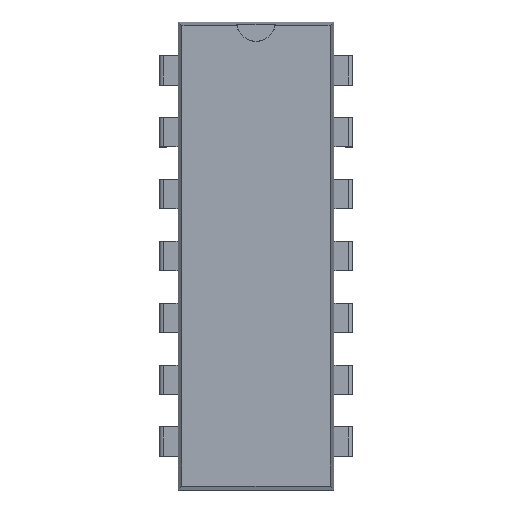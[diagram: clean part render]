
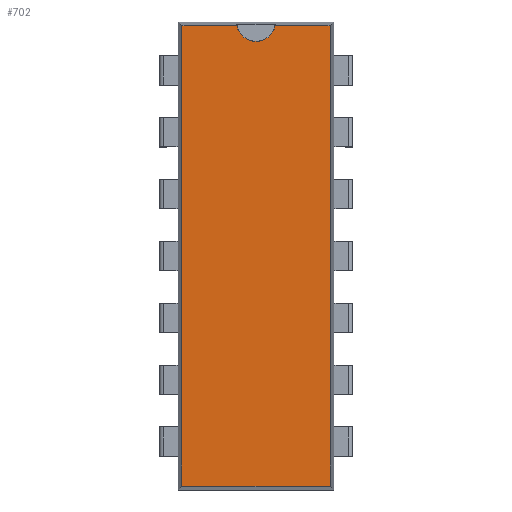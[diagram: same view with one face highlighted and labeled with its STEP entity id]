
A CAD part, top view. The second image highlights one B-rep face of the part: STEP entity #702.
In plain terms, the highlighted planar face has unit normal (0, 0, 1).
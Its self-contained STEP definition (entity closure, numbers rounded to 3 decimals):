
#141 = PLANE('',#142);
#142 = AXIS2_PLACEMENT_3D('',#143,#144,#145);
#143 = CARTESIAN_POINT('',(-3.12,-9.61,3.525));
#144 = DIRECTION('',(0.997,0.,
    -0.082));
#145 = DIRECTION('',(0.,1.,0.));
#227 = PLANE('',#228);
#228 = AXIS2_PLACEMENT_3D('',#229,#230,#231);
#229 = CARTESIAN_POINT('',(-3.2,-9.53,3.525));
#230 = DIRECTION('',(0.,0.997,
    -0.082));
#231 = DIRECTION('',(-1.,0.,0.));
#324 = VERTEX_POINT('',#325);
#325 = CARTESIAN_POINT('',(-3.04,-9.45,4.5));
#348 = VERTEX_POINT('',#349);
#349 = CARTESIAN_POINT('',(-3.04,9.45,4.5));
#363 = PLANE('',#364);
#364 = AXIS2_PLACEMENT_3D('',#365,#366,#367);
#365 = CARTESIAN_POINT('',(-3.2,9.53,3.525));
#366 = DIRECTION('',(0.,0.997,
    0.082));
#367 = DIRECTION('',(-1.,0.,0.));
#375 = EDGE_CURVE('',#324,#348,#376,.T.);
#376 = SURFACE_CURVE('',#377,(#381,#388),.PCURVE_S1.);
#377 = LINE('',#378,#379);
#378 = CARTESIAN_POINT('',(-3.04,-9.61,4.5));
#379 = VECTOR('',#380,1.);
#380 = DIRECTION('',(0.,1.,0.));
#381 = PCURVE('',#141,#382);
#382 = DEFINITIONAL_REPRESENTATION('',(#383),#387);
#383 = LINE('',#384,#385);
#384 = CARTESIAN_POINT('',(0.,0.978));
#385 = VECTOR('',#386,1.);
#386 = DIRECTION('',(1.,0.));
#387 = ( GEOMETRIC_REPRESENTATION_CONTEXT(2) 
PARAMETRIC_REPRESENTATION_CONTEXT() REPRESENTATION_CONTEXT('2D SPACE',''
  ) );
#388 = PCURVE('',#389,#394);
#389 = PLANE('',#390);
#390 = AXIS2_PLACEMENT_3D('',#391,#392,#393);
#391 = CARTESIAN_POINT('',(-3.2,-9.61,4.5));
#392 = DIRECTION('',(0.,0.,1.));
#393 = DIRECTION('',(1.,0.,0.));
#394 = DEFINITIONAL_REPRESENTATION('',(#395),#399);
#395 = LINE('',#396,#397);
#396 = CARTESIAN_POINT('',(0.16,0.));
#397 = VECTOR('',#398,1.);
#398 = DIRECTION('',(0.,1.));
#399 = ( GEOMETRIC_REPRESENTATION_CONTEXT(2) 
PARAMETRIC_REPRESENTATION_CONTEXT() REPRESENTATION_CONTEXT('2D SPACE',''
  ) );
#517 = PLANE('',#518);
#518 = AXIS2_PLACEMENT_3D('',#519,#520,#521);
#519 = CARTESIAN_POINT('',(3.12,-9.61,3.525));
#520 = DIRECTION('',(0.997,0.,
    0.082));
#521 = DIRECTION('',(0.,1.,0.));
#584 = VERTEX_POINT('',#585);
#585 = CARTESIAN_POINT('',(3.04,-9.45,4.5));
#606 = EDGE_CURVE('',#324,#584,#607,.T.);
#607 = SURFACE_CURVE('',#608,(#612,#619),.PCURVE_S1.);
#608 = LINE('',#609,#610);
#609 = CARTESIAN_POINT('',(-3.2,-9.45,4.5));
#610 = VECTOR('',#611,1.);
#611 = DIRECTION('',(1.,0.,0.));
#612 = PCURVE('',#227,#613);
#613 = DEFINITIONAL_REPRESENTATION('',(#614),#618);
#614 = LINE('',#615,#616);
#615 = CARTESIAN_POINT('',(-0.,0.978));
#616 = VECTOR('',#617,1.);
#617 = DIRECTION('',(-1.,0.));
#618 = ( GEOMETRIC_REPRESENTATION_CONTEXT(2) 
PARAMETRIC_REPRESENTATION_CONTEXT() REPRESENTATION_CONTEXT('2D SPACE',''
  ) );
#619 = PCURVE('',#389,#620);
#620 = DEFINITIONAL_REPRESENTATION('',(#621),#625);
#621 = LINE('',#622,#623);
#622 = CARTESIAN_POINT('',(0.,0.16));
#623 = VECTOR('',#624,1.);
#624 = DIRECTION('',(1.,0.));
#625 = ( GEOMETRIC_REPRESENTATION_CONTEXT(2) 
PARAMETRIC_REPRESENTATION_CONTEXT() REPRESENTATION_CONTEXT('2D SPACE',''
  ) );
#702 = ADVANCED_FACE('',(#703),#389,.T.);
#703 = FACE_BOUND('',#704,.T.);
#704 = EDGE_LOOP('',(#705,#706,#707,#730,#753,#782));
#705 = ORIENTED_EDGE('',*,*,#375,.F.);
#706 = ORIENTED_EDGE('',*,*,#606,.T.);
#707 = ORIENTED_EDGE('',*,*,#708,.T.);
#708 = EDGE_CURVE('',#584,#709,#711,.T.);
#709 = VERTEX_POINT('',#710);
#710 = CARTESIAN_POINT('',(3.04,9.45,4.5));
#711 = SURFACE_CURVE('',#712,(#716,#723),.PCURVE_S1.);
#712 = LINE('',#713,#714);
#713 = CARTESIAN_POINT('',(3.04,-9.61,4.5));
#714 = VECTOR('',#715,1.);
#715 = DIRECTION('',(0.,1.,0.));
#716 = PCURVE('',#389,#717);
#717 = DEFINITIONAL_REPRESENTATION('',(#718),#722);
#718 = LINE('',#719,#720);
#719 = CARTESIAN_POINT('',(6.24,0.));
#720 = VECTOR('',#721,1.);
#721 = DIRECTION('',(0.,1.));
#722 = ( GEOMETRIC_REPRESENTATION_CONTEXT(2) 
PARAMETRIC_REPRESENTATION_CONTEXT() REPRESENTATION_CONTEXT('2D SPACE',''
  ) );
#723 = PCURVE('',#517,#724);
#724 = DEFINITIONAL_REPRESENTATION('',(#725),#729);
#725 = LINE('',#726,#727);
#726 = CARTESIAN_POINT('',(0.,0.978));
#727 = VECTOR('',#728,1.);
#728 = DIRECTION('',(1.,0.));
#729 = ( GEOMETRIC_REPRESENTATION_CONTEXT(2) 
PARAMETRIC_REPRESENTATION_CONTEXT() REPRESENTATION_CONTEXT('2D SPACE',''
  ) );
#730 = ORIENTED_EDGE('',*,*,#731,.F.);
#731 = EDGE_CURVE('',#732,#709,#734,.T.);
#732 = VERTEX_POINT('',#733);
#733 = CARTESIAN_POINT('',(0.784,9.45,4.5));
#734 = SURFACE_CURVE('',#735,(#739,#746),.PCURVE_S1.);
#735 = LINE('',#736,#737);
#736 = CARTESIAN_POINT('',(-3.2,9.45,4.5));
#737 = VECTOR('',#738,1.);
#738 = DIRECTION('',(1.,0.,0.));
#739 = PCURVE('',#389,#740);
#740 = DEFINITIONAL_REPRESENTATION('',(#741),#745);
#741 = LINE('',#742,#743);
#742 = CARTESIAN_POINT('',(0.,19.06));
#743 = VECTOR('',#744,1.);
#744 = DIRECTION('',(1.,0.));
#745 = ( GEOMETRIC_REPRESENTATION_CONTEXT(2) 
PARAMETRIC_REPRESENTATION_CONTEXT() REPRESENTATION_CONTEXT('2D SPACE',''
  ) );
#746 = PCURVE('',#363,#747);
#747 = DEFINITIONAL_REPRESENTATION('',(#748),#752);
#748 = LINE('',#749,#750);
#749 = CARTESIAN_POINT('',(-0.,0.978));
#750 = VECTOR('',#751,1.);
#751 = DIRECTION('',(-1.,0.));
#752 = ( GEOMETRIC_REPRESENTATION_CONTEXT(2) 
PARAMETRIC_REPRESENTATION_CONTEXT() REPRESENTATION_CONTEXT('2D SPACE',''
  ) );
#753 = ORIENTED_EDGE('',*,*,#754,.F.);
#754 = EDGE_CURVE('',#755,#732,#757,.T.);
#755 = VERTEX_POINT('',#756);
#756 = CARTESIAN_POINT('',(-0.784,9.45,4.5));
#757 = SURFACE_CURVE('',#758,(#763,#770),.PCURVE_S1.);
#758 = CIRCLE('',#759,0.8);
#759 = AXIS2_PLACEMENT_3D('',#760,#761,#762);
#760 = CARTESIAN_POINT('',(0.,9.61,4.5));
#761 = DIRECTION('',(0.,0.,1.));
#762 = DIRECTION('',(1.,0.,0.));
#763 = PCURVE('',#389,#764);
#764 = DEFINITIONAL_REPRESENTATION('',(#765),#769);
#765 = CIRCLE('',#766,0.8);
#766 = AXIS2_PLACEMENT_2D('',#767,#768);
#767 = CARTESIAN_POINT('',(3.2,19.22));
#768 = DIRECTION('',(1.,0.));
#769 = ( GEOMETRIC_REPRESENTATION_CONTEXT(2) 
PARAMETRIC_REPRESENTATION_CONTEXT() REPRESENTATION_CONTEXT('2D SPACE',''
  ) );
#770 = PCURVE('',#771,#776);
#771 = CYLINDRICAL_SURFACE('',#772,0.8);
#772 = AXIS2_PLACEMENT_3D('',#773,#774,#775);
#773 = CARTESIAN_POINT('',(0.,9.61,4.05));
#774 = DIRECTION('',(0.,0.,1.));
#775 = DIRECTION('',(1.,0.,0.));
#776 = DEFINITIONAL_REPRESENTATION('',(#777),#781);
#777 = LINE('',#778,#779);
#778 = CARTESIAN_POINT('',(0.,0.45));
#779 = VECTOR('',#780,1.);
#780 = DIRECTION('',(1.,0.));
#781 = ( GEOMETRIC_REPRESENTATION_CONTEXT(2) 
PARAMETRIC_REPRESENTATION_CONTEXT() REPRESENTATION_CONTEXT('2D SPACE',''
  ) );
#782 = ORIENTED_EDGE('',*,*,#783,.F.);
#783 = EDGE_CURVE('',#348,#755,#784,.T.);
#784 = SURFACE_CURVE('',#785,(#789,#796),.PCURVE_S1.);
#785 = LINE('',#786,#787);
#786 = CARTESIAN_POINT('',(-3.2,9.45,4.5));
#787 = VECTOR('',#788,1.);
#788 = DIRECTION('',(1.,0.,0.));
#789 = PCURVE('',#389,#790);
#790 = DEFINITIONAL_REPRESENTATION('',(#791),#795);
#791 = LINE('',#792,#793);
#792 = CARTESIAN_POINT('',(0.,19.06));
#793 = VECTOR('',#794,1.);
#794 = DIRECTION('',(1.,0.));
#795 = ( GEOMETRIC_REPRESENTATION_CONTEXT(2) 
PARAMETRIC_REPRESENTATION_CONTEXT() REPRESENTATION_CONTEXT('2D SPACE',''
  ) );
#796 = PCURVE('',#363,#797);
#797 = DEFINITIONAL_REPRESENTATION('',(#798),#802);
#798 = LINE('',#799,#800);
#799 = CARTESIAN_POINT('',(-0.,0.978));
#800 = VECTOR('',#801,1.);
#801 = DIRECTION('',(-1.,0.));
#802 = ( GEOMETRIC_REPRESENTATION_CONTEXT(2) 
PARAMETRIC_REPRESENTATION_CONTEXT() REPRESENTATION_CONTEXT('2D SPACE',''
  ) );
